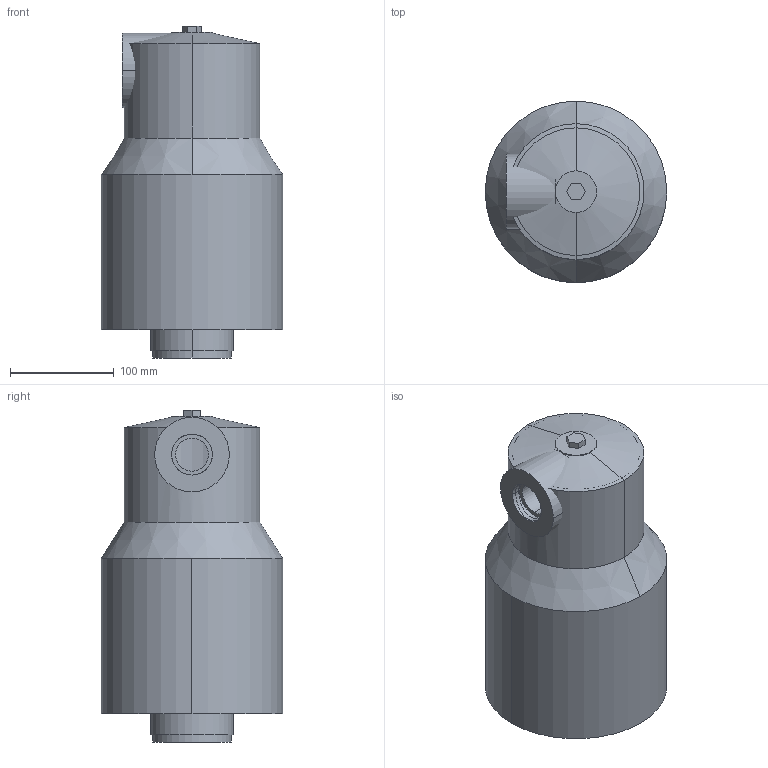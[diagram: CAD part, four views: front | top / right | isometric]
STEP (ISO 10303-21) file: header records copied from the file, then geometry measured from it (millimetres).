
FILE_DESCRIPTION(('STEP AP214'),'1');
FILE_NAME('S:/EK/USER/CAT6/3DHomepage/9876/9876-PN16-DN50.STP','2012-04-26T07:47:16',(' '),(' '),'Spatial InterOp 3D',' ',' ');
FILE_SCHEMA(('automotive_design'));
Length unit declared in the file: millimetre
Products named in the file (12): 3D-Objekt
Bounding box: 175 x 175 x 320 mm (x, y, z)
Volume: 3562320.1 mm3; surface area: 528839.2 mm2
Topology: 12 solids, 12 shells, 69 faces, 130 edges, 86 vertices
Faces by surface type: plane 31, cylinder 26, cone 12
Entity records: 2768 total; most frequent: CARTESIAN_POINT 461, DIRECTION 358, ORIENTED_EDGE 260, AXIS2_PLACEMENT_3D 151, EDGE_CURVE 130, VERTEX_POINT 86, EDGE_LOOP 82, STYLED_ITEM 81
